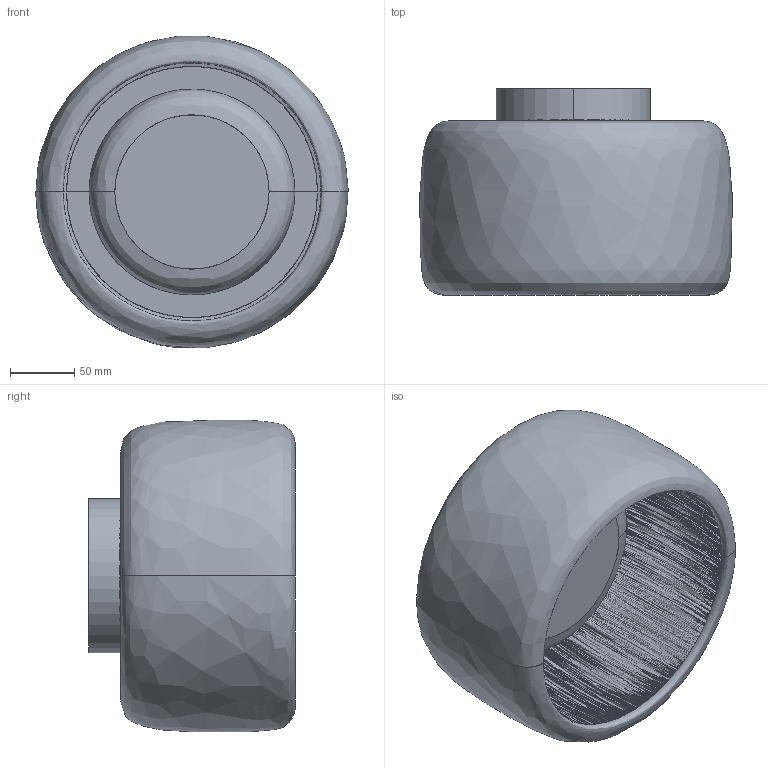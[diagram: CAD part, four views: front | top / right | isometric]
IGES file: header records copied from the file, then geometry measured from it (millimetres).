
Start section: SolidWorks IGES file using analytic representation for surfaces
Global section: file name: \\ARNOLD\compartida\Nueva Coleccion Septiembre 2026\ISES_1364\ISES_A1364\3D\ISES_A1364.IGS; native system: SolidWorks 2023; preprocessor: SolidWorks 2023; author: adrian; date: 260911.172340; units: millimetre
Bounding box: 243.28 x 160.7 x 242.31 mm (x, y, z)
Surface area: 485815.8 mm2 (no closed solid volume)
Topology: 0 solids, 0 shells, 556 faces, 4067 edges, 4065 vertices
Faces by surface type: bspline 552, revolution 4
